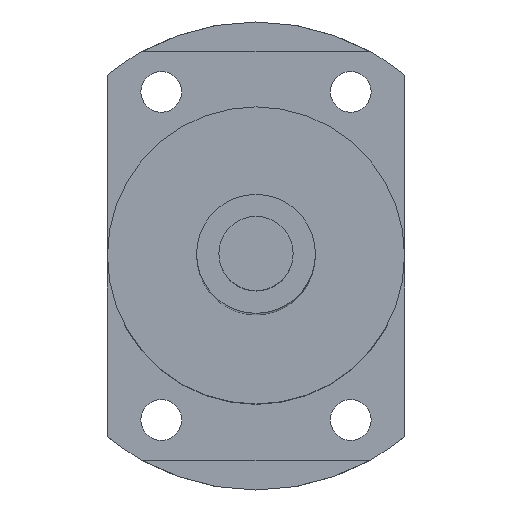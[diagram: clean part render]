
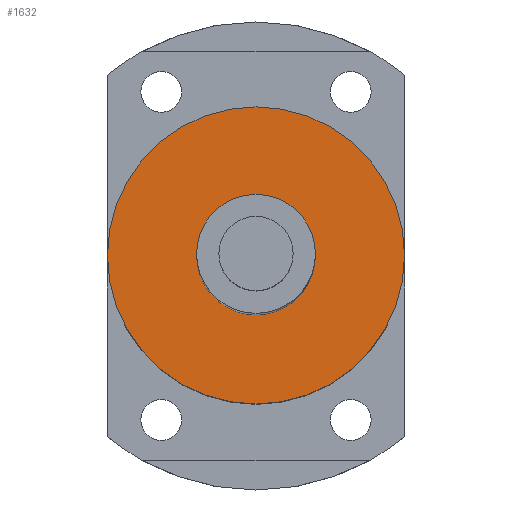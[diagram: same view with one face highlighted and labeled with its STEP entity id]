
A CAD part, top view. The second image highlights one B-rep face of the part: STEP entity #1632.
In plain terms, the highlighted planar face has unit normal (0, 0, 1).
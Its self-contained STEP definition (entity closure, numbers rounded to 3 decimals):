
#503=CARTESIAN_POINT('',(0.,0.,225.5));
#504=DIRECTION('',(0.,0.,1.));
#505=DIRECTION('',(1.,0.,0.));
#506=AXIS2_PLACEMENT_3D('',#503,#504,#505);
#508=CARTESIAN_POINT('',(0.,0.,225.5));
#509=DIRECTION('',(0.,0.,1.));
#510=DIRECTION('',(-1.,0.,0.));
#511=AXIS2_PLACEMENT_3D('',#508,#509,#510);
#513=CARTESIAN_POINT('',(0.,0.,225.5));
#514=DIRECTION('',(0.,0.,1.));
#515=DIRECTION('',(1.,0.,0.));
#516=AXIS2_PLACEMENT_3D('',#513,#514,#515);
#518=CARTESIAN_POINT('',(0.,0.,225.5));
#519=DIRECTION('',(0.,0.,1.));
#520=DIRECTION('',(-1.,0.,0.));
#521=AXIS2_PLACEMENT_3D('',#518,#519,#520);
#757=CARTESIAN_POINT('',(20.,0.,225.5));
#758=CARTESIAN_POINT('',(-20.,0.,225.5));
#759=VERTEX_POINT('',#757);
#760=VERTEX_POINT('',#758);
#769=CARTESIAN_POINT('',(8.,0.,225.5));
#770=CARTESIAN_POINT('',(-8.,0.,225.5));
#771=VERTEX_POINT('',#769);
#772=VERTEX_POINT('',#770);
#1617=CARTESIAN_POINT('',(0.,0.,225.5));
#1618=DIRECTION('',(0.,0.,1.));
#1619=DIRECTION('',(1.,0.,0.));
#1620=AXIS2_PLACEMENT_3D('',#1617,#1618,#1619);
#1621=PLANE('',#1620);
#1622=ORIENTED_EDGE('',*,*,#1597,.F.);
#1623=ORIENTED_EDGE('',*,*,#1611,.F.);
#1624=EDGE_LOOP('',(#1622,#1623));
#1625=FACE_OUTER_BOUND('',#1624,.F.);
#1627=ORIENTED_EDGE('',*,*,#1626,.T.);
#1629=ORIENTED_EDGE('',*,*,#1628,.T.);
#1630=EDGE_LOOP('',(#1627,#1629));
#1631=FACE_BOUND('',#1630,.F.);
#1632=ADVANCED_FACE('',(#1625,#1631),#1621,.T.);
#507=CIRCLE('',#506,20.);
#512=CIRCLE('',#511,20.);
#517=CIRCLE('',#516,8.);
#522=CIRCLE('',#521,8.);
#1597=EDGE_CURVE('',#759,#760,#507,.T.);
#1611=EDGE_CURVE('',#760,#759,#512,.T.);
#1626=EDGE_CURVE('',#771,#772,#517,.T.);
#1628=EDGE_CURVE('',#772,#771,#522,.T.);
